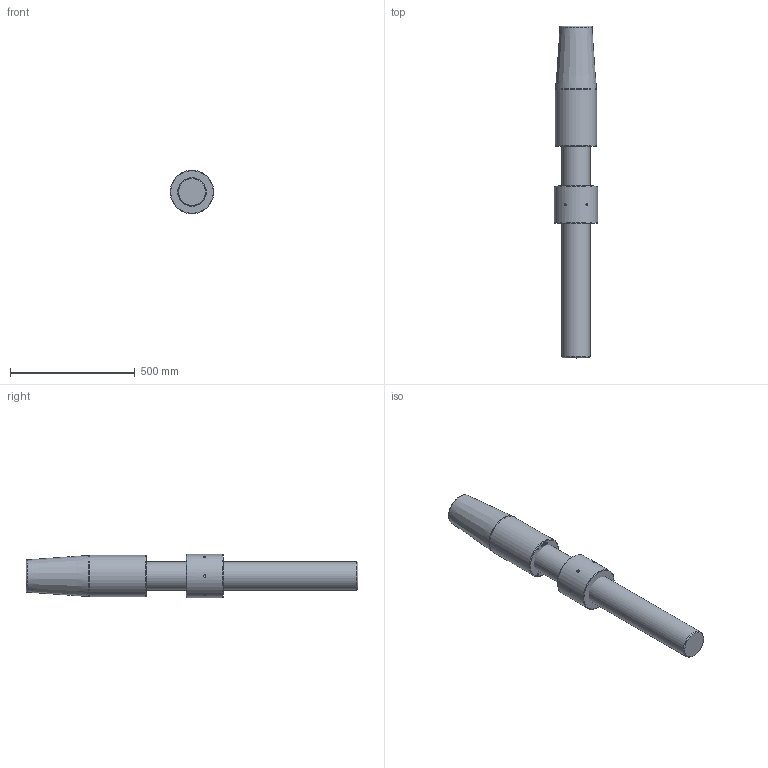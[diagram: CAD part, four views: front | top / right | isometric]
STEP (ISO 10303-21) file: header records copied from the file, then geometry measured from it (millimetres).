
FILE_DESCRIPTION(/* description */ (''),/* implementation_level */ '2;1');
FILE_NAME(/* name */ 'C:\Users\ranca\Desktop\CYM\ARRANGEMENT\CYM056 52 061 0.stp',/* time_stamp */ '2021-04-22T21:26:21+02:00',/* author */ ('ranca'),/* organization */ (''),/* preprocessor_version */ 'ST-DEVELOPER v16.13',/* originating_system */ 'Autodesk Inventor 2018',/* authorisation */ '');
FILE_SCHEMA (('AUTOMOTIVE_DESIGN { 1 0 10303 214 3 1 1 }'));
Length unit declared in the file: millimetre
Products named in the file (4): CYM052-52-061-0; CYM012-52-061-0_ROD; CYC056 52 065 0_CYL SOK_RH; CYM056-41-051-0
Assembly tree (3 placements, depth 2):
  CYM052-52-061-0
    CYM012-52-061-0_ROD
    CYC056 52 065 0_CYL SOK_RH
    CYM056-41-051-0
Bounding box: 175 x 1332 x 175 mm (x, y, z)
Volume: 23190889.4 mm3; surface area: 782558.5 mm2
Topology: 3 solids, 3 shells, 550 faces, 1486 edges, 987 vertices
Faces by surface type: bspline 308, plane 214, cone 14, cylinder 12, torus 2
Full cylindrical faces by diameter (mm): 8.376 x3, 10 x6, 115 x1, 165 x1, 175 x1
Entity records: 18874 total; most frequent: CARTESIAN_POINT 7212, ORIENTED_EDGE 2896, EDGE_CURVE 1448, DIRECTION 1347, VERTEX_POINT 978, LINE 793, VECTOR 793, B_SPLINE_CURVE_WITH_KNOTS 626
